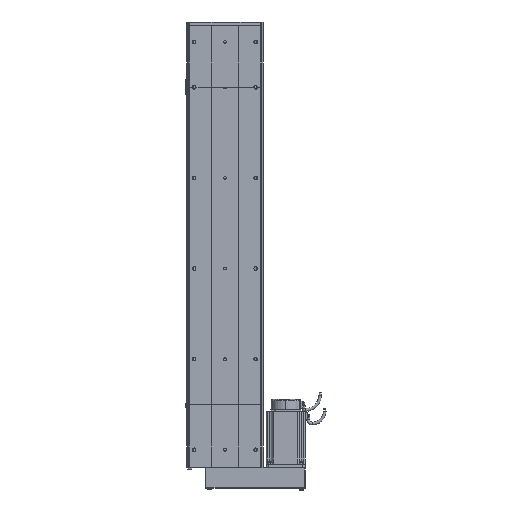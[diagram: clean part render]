
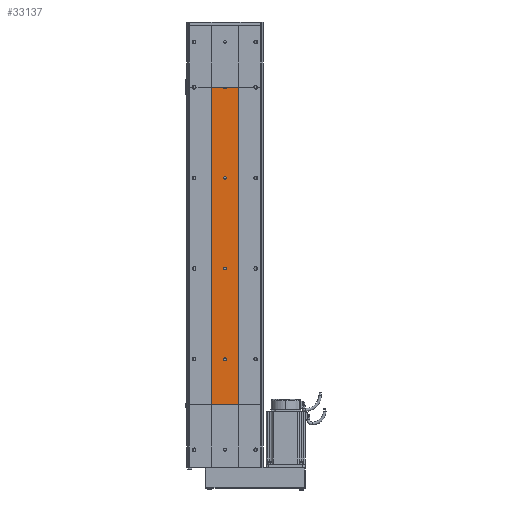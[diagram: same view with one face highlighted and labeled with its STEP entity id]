
A CAD part, front view. The second image highlights one B-rep face of the part: STEP entity #33137.
In plain terms, the highlighted planar face has unit normal (0, -1, 0).
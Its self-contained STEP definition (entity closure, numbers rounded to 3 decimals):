
#12180 = CARTESIAN_POINT ( 'NONE',  ( -3., -32.5, 700. ) ) ;
#12866 = DIRECTION ( 'NONE',  ( -1., 0., 0. ) ) ;
#12867 = CARTESIAN_POINT ( 'NONE',  ( -30., -32.5, 700. ) ) ;
#12913 = VECTOR ( 'NONE', #12866, 1000. ) ;
#12922 = LINE ( 'NONE', #12867, #12913 ) ;
#13367 = DIRECTION ( 'NONE',  ( -1., 0., 0. ) ) ;
#13368 = VECTOR ( 'NONE', #13367, 1000. ) ;
#13369 = CARTESIAN_POINT ( 'NONE',  ( -30., -32.5, 700. ) ) ;
#13381 = LINE ( 'NONE', #13369, #13368 ) ;
#13386 = CARTESIAN_POINT ( 'NONE',  ( 30., -32.5, 700. ) ) ;
#15137 = DIRECTION ( 'NONE',  ( 0., 0., -1. ) ) ;
#15138 = DIRECTION ( 'NONE',  ( 0., -1., 0. ) ) ;
#15139 = AXIS2_PLACEMENT_3D ( 'NONE', #15154, #15138, #15137 ) ;
#15141 = VECTOR ( 'NONE', #15194, 1000. ) ;
#15142 = CARTESIAN_POINT ( 'NONE',  ( 30., -32.5, 0. ) ) ;
#15143 = LINE ( 'NONE', #15142, #15141 ) ;
#15144 = DIRECTION ( 'NONE',  ( 0., 0., -1. ) ) ;
#15145 = DIRECTION ( 'NONE',  ( 0., -1., 0. ) ) ;
#15146 = CIRCLE ( 'NONE', #15139, 3. ) ;
#15150 = CARTESIAN_POINT ( 'NONE',  ( 0., -32.5, 300. ) ) ;
#15151 = DIRECTION ( 'NONE',  ( 0., 0., -1. ) ) ;
#15152 = DIRECTION ( 'NONE',  ( 0., -1., 0. ) ) ;
#15153 = CARTESIAN_POINT ( 'NONE',  ( 0., -32.5, 500. ) ) ;
#15154 = CARTESIAN_POINT ( 'NONE',  ( 0., -32.5, 100. ) ) ;
#15155 = CIRCLE ( 'NONE', #15158, 3. ) ;
#15158 = AXIS2_PLACEMENT_3D ( 'NONE', #15153, #15152, #15151 ) ;
#15165 = CIRCLE ( 'NONE', #15166, 3. ) ;
#15166 = AXIS2_PLACEMENT_3D ( 'NONE', #15150, #15145, #15144 ) ;
#15194 = DIRECTION ( 'NONE',  ( 0., 0., 1. ) ) ;
#15305 = DIRECTION ( 'NONE',  ( 0., 0., 1. ) ) ;
#15306 = DIRECTION ( 'NONE',  ( 0., 1., 0. ) ) ;
#15307 = CARTESIAN_POINT ( 'NONE',  ( 0., -32.5, 700. ) ) ;
#15308 = AXIS2_PLACEMENT_3D ( 'NONE', #15307, #15306, #15305 ) ;
#15309 = CIRCLE ( 'NONE', #15308, 3. ) ;
#16583 = CARTESIAN_POINT ( 'NONE',  ( 3., -32.5, 700. ) ) ;
#16614 = CARTESIAN_POINT ( 'NONE',  ( 0., -32.5, 697. ) ) ;
#16654 = CARTESIAN_POINT ( 'NONE',  ( 0., -32.5, 503. ) ) ;
#16678 = DIRECTION ( 'NONE',  ( 0., 0., -1. ) ) ;
#16679 = DIRECTION ( 'NONE',  ( 0., -1., 0. ) ) ;
#16680 = CARTESIAN_POINT ( 'NONE',  ( 0., -32.5, 300. ) ) ;
#16681 = AXIS2_PLACEMENT_3D ( 'NONE', #16680, #16679, #16678 ) ;
#16682 = CARTESIAN_POINT ( 'NONE',  ( 0., -32.5, 303. ) ) ;
#16685 = CIRCLE ( 'NONE', #16681, 3. ) ;
#16692 = CIRCLE ( 'NONE', #16734, 3. ) ;
#16699 = CARTESIAN_POINT ( 'NONE',  ( 0., -32.5, 500. ) ) ;
#16709 = CARTESIAN_POINT ( 'NONE',  ( 0., -32.5, 700. ) ) ;
#16716 = CARTESIAN_POINT ( 'NONE',  ( 0., -32.5, 297. ) ) ;
#16717 = DIRECTION ( 'NONE',  ( 0., 1., 0. ) ) ;
#16718 = CIRCLE ( 'NONE', #16724, 3. ) ;
#16724 = AXIS2_PLACEMENT_3D ( 'NONE', #16709, #16717, #16765 ) ;
#16727 = CARTESIAN_POINT ( 'NONE',  ( 0., -32.5, 497. ) ) ;
#16729 = DIRECTION ( 'NONE',  ( 0., 0., -1. ) ) ;
#16730 = DIRECTION ( 'NONE',  ( 0., -1., 0. ) ) ;
#16734 = AXIS2_PLACEMENT_3D ( 'NONE', #16699, #16730, #16729 ) ;
#16765 = DIRECTION ( 'NONE',  ( 0., 0., 1. ) ) ;
#17627 = CARTESIAN_POINT ( 'NONE',  ( -30., -32.5, 0. ) ) ;
#17756 = CARTESIAN_POINT ( 'NONE',  ( 30., -32.5, 0. ) ) ;
#17760 = DIRECTION ( 'NONE',  ( -1., 0., 0. ) ) ;
#17761 = VECTOR ( 'NONE', #17760, 1000. ) ;
#17762 = CARTESIAN_POINT ( 'NONE',  ( -30., -32.5, 0. ) ) ;
#17764 = LINE ( 'NONE', #17762, #17761 ) ;
#17966 = CARTESIAN_POINT ( 'NONE',  ( -30., -32.5, 0. ) ) ;
#17975 = AXIS2_PLACEMENT_3D ( 'NONE', #17966, #18029, #18011 ) ;
#17979 = FACE_OUTER_BOUND ( 'NONE', #30792, .T. ) ;
#17990 = FACE_BOUND ( 'NONE', #32855, .T. ) ;
#18011 = DIRECTION ( 'NONE',  ( 0., 0., 1. ) ) ;
#18019 = FACE_BOUND ( 'NONE', #30782, .T. ) ;
#18020 = DIRECTION ( 'NONE',  ( 0., 0., 1. ) ) ;
#18021 = VECTOR ( 'NONE', #18020, 1000. ) ;
#18022 = CARTESIAN_POINT ( 'NONE',  ( -30., -32.5, 0. ) ) ;
#18023 = LINE ( 'NONE', #18022, #18021 ) ;
#18029 = DIRECTION ( 'NONE',  ( 0., 1., 0. ) ) ;
#18030 = FACE_BOUND ( 'NONE', #30786, .T. ) ;
#18032 = PLANE ( 'NONE',  #17975 ) ;
#18103 = CARTESIAN_POINT ( 'NONE',  ( -30., -32.5, 700. ) ) ;
#28434 = VERTEX_POINT ( 'NONE', #12180 ) ;
#29180 = EDGE_CURVE ( 'NONE', #28434, #33201, #12922, .T. ) ;
#29589 = VERTEX_POINT ( 'NONE', #13386 ) ;
#29597 = EDGE_CURVE ( 'NONE', #29589, #32022, #13381, .T. ) ;
#30771 = ORIENTED_EDGE ( 'NONE', *, *, #33136, .F. ) ;
#30777 = ORIENTED_EDGE ( 'NONE', *, *, #30801, .T. ) ;
#30779 = EDGE_CURVE ( 'NONE', #32150, #32121, #15155, .T. ) ;
#30782 = EDGE_LOOP ( 'NONE', ( #30796, #30909 ) ) ;
#30784 = ORIENTED_EDGE ( 'NONE', *, *, #32147, .F. ) ;
#30785 = EDGE_CURVE ( 'NONE', #32162, #32140, #15165, .T. ) ;
#30786 = EDGE_LOOP ( 'NONE', ( #30789, #30788 ) ) ;
#30788 = ORIENTED_EDGE ( 'NONE', *, *, #32138, .F. ) ;
#30789 = ORIENTED_EDGE ( 'NONE', *, *, #30785, .F. ) ;
#30792 = EDGE_LOOP ( 'NONE', ( #30793, #30915, #30911, #30799, #30771, #30917, #30777 ) ) ;
#30793 = ORIENTED_EDGE ( 'NONE', *, *, #29597, .T. ) ;
#30795 = EDGE_CURVE ( 'NONE', #42074, #38276, #15146, .T. ) ;
#30796 = ORIENTED_EDGE ( 'NONE', *, *, #30795, .F. ) ;
#30799 = ORIENTED_EDGE ( 'NONE', *, *, #29180, .T. ) ;
#30801 = EDGE_CURVE ( 'NONE', #32871, #29589, #15143, .T. ) ;
#30909 = ORIENTED_EDGE ( 'NONE', *, *, #41913, .F. ) ;
#30911 = ORIENTED_EDGE ( 'NONE', *, *, #30913, .T. ) ;
#30913 = EDGE_CURVE ( 'NONE', #32085, #28434, #15309, .T. ) ;
#30915 = ORIENTED_EDGE ( 'NONE', *, *, #32166, .T. ) ;
#30917 = ORIENTED_EDGE ( 'NONE', *, *, #32849, .F. ) ;
#32022 = VERTEX_POINT ( 'NONE', #16583 ) ;
#32085 = VERTEX_POINT ( 'NONE', #16614 ) ;
#32121 = VERTEX_POINT ( 'NONE', #16654 ) ;
#32138 = EDGE_CURVE ( 'NONE', #32140, #32162, #16685, .T. ) ;
#32140 = VERTEX_POINT ( 'NONE', #16682 ) ;
#32147 = EDGE_CURVE ( 'NONE', #32121, #32150, #16692, .T. ) ;
#32150 = VERTEX_POINT ( 'NONE', #16727 ) ;
#32162 = VERTEX_POINT ( 'NONE', #16716 ) ;
#32166 = EDGE_CURVE ( 'NONE', #32022, #32085, #16718, .T. ) ;
#32221 = ORIENTED_EDGE ( 'NONE', *, *, #30779, .F. ) ;
#32741 = VERTEX_POINT ( 'NONE', #17627 ) ;
#32849 = EDGE_CURVE ( 'NONE', #32871, #32741, #17764, .T. ) ;
#32855 = EDGE_LOOP ( 'NONE', ( #32221, #30784 ) ) ;
#32871 = VERTEX_POINT ( 'NONE', #17756 ) ;
#33136 = EDGE_CURVE ( 'NONE', #32741, #33201, #18023, .T. ) ;
#33137 = ADVANCED_FACE ( 'NONE', ( #17990, #18030, #18019, #17979 ), #18032, .F. ) ;
#33201 = VERTEX_POINT ( 'NONE', #18103 ) ;
#37008 = CARTESIAN_POINT ( 'NONE',  ( 0., -32.5, 103. ) ) ;
#38276 = VERTEX_POINT ( 'NONE', #37008 ) ;
#41913 = EDGE_CURVE ( 'NONE', #38276, #42074, #47229, .T. ) ;
#42074 = VERTEX_POINT ( 'NONE', #47657 ) ;
#47200 = DIRECTION ( 'NONE',  ( 0., 0., -1. ) ) ;
#47201 = DIRECTION ( 'NONE',  ( 0., -1., 0. ) ) ;
#47203 = CARTESIAN_POINT ( 'NONE',  ( 0., -32.5, 100. ) ) ;
#47224 = AXIS2_PLACEMENT_3D ( 'NONE', #47203, #47201, #47200 ) ;
#47229 = CIRCLE ( 'NONE', #47224, 3. ) ;
#47657 = CARTESIAN_POINT ( 'NONE',  ( 0., -32.5, 97. ) ) ;
